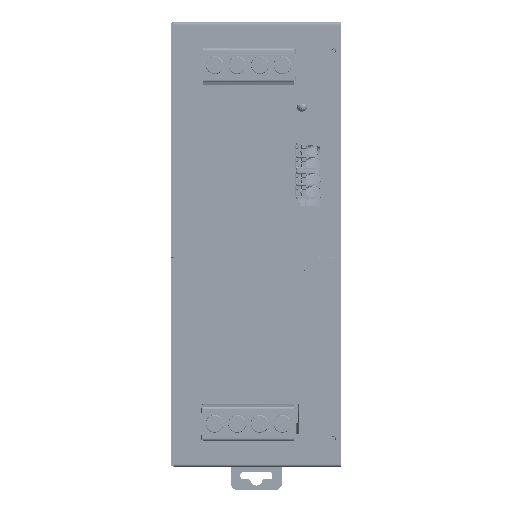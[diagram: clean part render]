
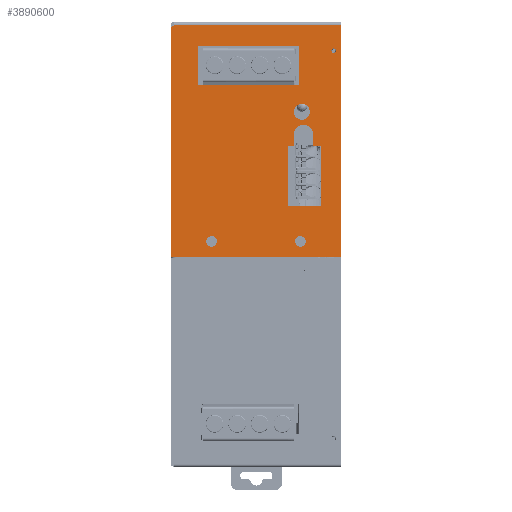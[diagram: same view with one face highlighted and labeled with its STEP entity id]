
A CAD part, left-side view. The second image highlights one B-rep face of the part: STEP entity #3890600.
In plain terms, the highlighted planar face has unit normal (-1, 0, 0).
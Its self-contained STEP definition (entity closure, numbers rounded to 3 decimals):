
#3886040=CARTESIAN_POINT('',(-36.647,70.686,
74.55));
#3886050=VERTEX_POINT('',#3886040);
#3886080=CARTESIAN_POINT('',(-36.647,70.686,
74.3));
#3886090=DIRECTION('',(0.,0.,1.));
#3886100=VECTOR('',#3886090,1.);
#3886110=LINE('',#3886080,#3886100);
#3886120=CARTESIAN_POINT('',(-36.647,70.686,
74.3));
#3886130=VERTEX_POINT('',#3886120);
#3886140=EDGE_CURVE('',#3886130,#3886050,#3886110,.T.);
#3886470=CARTESIAN_POINT('',(-36.647,23.686,
74.55));
#3886480=VERTEX_POINT('',#3886470);
#3886510=CARTESIAN_POINT('',(-36.647,70.686,
74.55));
#3886520=DIRECTION('',(0.,-1.,0.));
#3886530=VECTOR('',#3886520,1.);
#3886540=LINE('',#3886510,#3886530);
#3886550=EDGE_CURVE('',#3886050,#3886480,#3886540,.T.);
#3887770=CARTESIAN_POINT('',(-36.647,23.686,
9.2));
#3887780=VERTEX_POINT('',#3887770);
#3887930=CARTESIAN_POINT('',(-36.647,71.686,
9.2));
#3887940=VERTEX_POINT('',#3887930);
#3887970=CARTESIAN_POINT('',(-36.647,0.,9.2));
#3887980=DIRECTION('',(0.,-1.,0.));
#3887990=VECTOR('',#3887980,1.);
#3888000=LINE('',#3887970,#3887990);
#3888010=EDGE_CURVE('',#3887940,#3887780,#3888000,.T.);
#3888680=CARTESIAN_POINT('',(-36.647,31.986,
92.23));
#3888690=DIRECTION('',(-1.,0.,0.));
#3888700=DIRECTION('',(0.,0.,1.));
#3888710=AXIS2_PLACEMENT_3D('',#3888680,#3888690,#3888700);
#3888720=PLANE('',#3888710);
#3888730=CARTESIAN_POINT('',(-36.647,63.985,
68.8));
#3888740=DIRECTION('',(0.,0.,-1.));
#3888750=VECTOR('',#3888740,1.);
#3888760=LINE('',#3888730,#3888750);
#3888770=CARTESIAN_POINT('',(-36.647,63.985,
68.657));
#3888780=VERTEX_POINT('',#3888770);
#3888790=CARTESIAN_POINT('',(-36.647,63.985,
57.657));
#3888800=VERTEX_POINT('',#3888790);
#3888810=EDGE_CURVE('',#3888780,#3888800,#3888760,.T.);
#3888820=ORIENTED_EDGE('',*,*,#3888810,.F.);
#3888830=CARTESIAN_POINT('',(-36.647,64.486,
57.657));
#3888840=DIRECTION('',(0.,-1.,0.));
#3888850=VECTOR('',#3888840,1.);
#3888860=LINE('',#3888830,#3888850);
#3888870=CARTESIAN_POINT('',(-36.647,35.585,
57.657));
#3888880=VERTEX_POINT('',#3888870);
#3888890=EDGE_CURVE('',#3888800,#3888880,#3888860,.T.);
#3888900=ORIENTED_EDGE('',*,*,#3888890,.F.);
#3888910=CARTESIAN_POINT('',(-36.647,35.585,
56.8));
#3888920=DIRECTION('',(0.,0.,1.));
#3888930=VECTOR('',#3888920,1.);
#3888940=LINE('',#3888910,#3888930);
#3888950=CARTESIAN_POINT('',(-36.647,35.585,
68.657));
#3888960=VERTEX_POINT('',#3888950);
#3888970=EDGE_CURVE('',#3888880,#3888960,#3888940,.T.);
#3888980=ORIENTED_EDGE('',*,*,#3888970,.F.);
#3888990=CARTESIAN_POINT('',(-36.647,36.986,
68.657));
#3889000=DIRECTION('',(0.,1.,0.));
#3889010=VECTOR('',#3889000,1.);
#3889020=LINE('',#3888990,#3889010);
#3889030=EDGE_CURVE('',#3888960,#3888780,#3889020,.T.);
#3889040=ORIENTED_EDGE('',*,*,#3889030,.F.);
#3889050=EDGE_LOOP('',(#3889040,#3888980,#3888900,#3888820));
#3889060=FACE_BOUND('',#3889050,.T.);
#3889070=CARTESIAN_POINT('',(-36.647,25.786,
67.202));
#3889080=DIRECTION('',(1.,0.,0.));
#3889090=DIRECTION('',(0.,1.,0.));
#3889100=AXIS2_PLACEMENT_3D('',#3889070,#3889080,#3889090);
#3889110=CIRCLE('',#3889100,0.662);
#3889120=CARTESIAN_POINT('',(-36.647,26.449,
67.202));
#3889130=VERTEX_POINT('',#3889120);
#3889140=CARTESIAN_POINT('',(-36.647,25.124,
67.202));
#3889150=VERTEX_POINT('',#3889140);
#3889160=EDGE_CURVE('',#3889130,#3889150,#3889110,.T.);
#3889170=ORIENTED_EDGE('',*,*,#3889160,.T.);
#3889180=EDGE_CURVE('',#3889150,#3889130,#3889110,.T.);
#3889190=ORIENTED_EDGE('',*,*,#3889180,.T.);
#3889200=EDGE_LOOP('',(#3889190,#3889170));
#3889210=FACE_BOUND('',#3889200,.T.);
#3889220=CARTESIAN_POINT('',(-36.647,34.799,
50.041));
#3889230=DIRECTION('',(-1.,0.,0.));
#3889240=DIRECTION('',(0.,1.,0.));
#3889250=AXIS2_PLACEMENT_3D('',#3889220,#3889230,#3889240);
#3889260=CIRCLE('',#3889250,2.25);
#3889270=CARTESIAN_POINT('',(-36.647,37.049,
50.041));
#3889280=VERTEX_POINT('',#3889270);
#3889290=CARTESIAN_POINT('',(-36.647,32.549,
50.041));
#3889300=VERTEX_POINT('',#3889290);
#3889310=EDGE_CURVE('',#3889280,#3889300,#3889260,.T.);
#3889320=ORIENTED_EDGE('',*,*,#3889310,.F.);
#3889330=EDGE_CURVE('',#3889300,#3889280,#3889260,.T.);
#3889340=ORIENTED_EDGE('',*,*,#3889330,.F.);
#3889350=EDGE_LOOP('',(#3889340,#3889320));
#3889360=FACE_BOUND('',#3889350,.T.);
#3889370=CARTESIAN_POINT('',(-36.647,35.186,
13.55));
#3889380=DIRECTION('',(1.,0.,0.));
#3889390=DIRECTION('',(0.,0.,-1.));
#3889400=AXIS2_PLACEMENT_3D('',#3889370,#3889380,#3889390);
#3889410=CIRCLE('',#3889400,1.5);
#3889420=CARTESIAN_POINT('',(-36.647,35.186,
15.05));
#3889430=VERTEX_POINT('',#3889420);
#3889440=CARTESIAN_POINT('',(-36.647,35.186,
12.05));
#3889450=VERTEX_POINT('',#3889440);
#3889460=EDGE_CURVE('',#3889430,#3889450,#3889410,.T.);
#3889470=ORIENTED_EDGE('',*,*,#3889460,.T.);
#3889480=EDGE_CURVE('',#3889450,#3889430,#3889410,.T.);
#3889490=ORIENTED_EDGE('',*,*,#3889480,.T.);
#3889500=EDGE_LOOP('',(#3889490,#3889470));
#3889510=FACE_BOUND('',#3889500,.T.);
#3889520=CARTESIAN_POINT('',(-36.647,60.186,
13.55));
#3889530=DIRECTION('',(1.,0.,0.));
#3889540=DIRECTION('',(0.,0.,-1.));
#3889550=AXIS2_PLACEMENT_3D('',#3889520,#3889530,#3889540);
#3889560=CIRCLE('',#3889550,1.5);
#3889570=CARTESIAN_POINT('',(-36.647,60.186,
15.05));
#3889580=VERTEX_POINT('',#3889570);
#3889590=CARTESIAN_POINT('',(-36.647,60.186,
12.05));
#3889600=VERTEX_POINT('',#3889590);
#3889610=EDGE_CURVE('',#3889580,#3889600,#3889560,.T.);
#3889620=ORIENTED_EDGE('',*,*,#3889610,.T.);
#3889630=EDGE_CURVE('',#3889600,#3889580,#3889560,.T.);
#3889640=ORIENTED_EDGE('',*,*,#3889630,.T.);
#3889650=EDGE_LOOP('',(#3889640,#3889620));
#3889660=FACE_BOUND('',#3889650,.T.);
#3889670=CARTESIAN_POINT('',(-36.647,34.286,
43.597));
#3889680=DIRECTION('',(1.,0.,0.));
#3889690=DIRECTION('',(0.,1.,0.));
#3889700=AXIS2_PLACEMENT_3D('',#3889670,#3889680,#3889690);
#3889710=CIRCLE('',#3889700,2.75);
#3889720=CARTESIAN_POINT('',(-36.647,37.036,
43.597));
#3889730=VERTEX_POINT('',#3889720);
#3889740=CARTESIAN_POINT('',(-36.647,31.536,
43.597));
#3889750=VERTEX_POINT('',#3889740);
#3889760=EDGE_CURVE('',#3889730,#3889750,#3889710,.T.);
#3889770=ORIENTED_EDGE('',*,*,#3889760,.T.);
#3889780=CARTESIAN_POINT('',(-36.647,37.036,
42.885));
#3889790=DIRECTION('',(0.,0.,-1.));
#3889800=VECTOR('',#3889790,1.);
#3889810=LINE('',#3889780,#3889800);
#3889820=CARTESIAN_POINT('',(-36.647,37.036,
40.508));
#3889830=VERTEX_POINT('',#3889820);
#3889840=EDGE_CURVE('',#3889730,#3889830,#3889810,.T.);
#3889850=ORIENTED_EDGE('',*,*,#3889840,.F.);
#3889860=CARTESIAN_POINT('',(-36.647,36.29,
40.508));
#3889870=DIRECTION('',(0.,1.,0.));
#3889880=VECTOR('',#3889870,1.);
#3889890=LINE('',#3889860,#3889880);
#3889900=CARTESIAN_POINT('',(-36.647,38.786,
40.508));
#3889910=VERTEX_POINT('',#3889900);
#3889920=EDGE_CURVE('',#3889830,#3889910,#3889890,.T.);
#3889930=ORIENTED_EDGE('',*,*,#3889920,.F.);
#3889940=CARTESIAN_POINT('',(-36.647,38.786,
24.409));
#3889950=DIRECTION('',(0.,0.,1.));
#3889960=VECTOR('',#3889950,1.);
#3889970=LINE('',#3889940,#3889960);
#3889980=CARTESIAN_POINT('',(-36.647,38.786,
23.509));
#3889990=VERTEX_POINT('',#3889980);
#3890000=EDGE_CURVE('',#3889990,#3889910,#3889970,.T.);
#3890010=ORIENTED_EDGE('',*,*,#3890000,.T.);
#3890020=CARTESIAN_POINT('',(-36.647,29.786,
23.509));
#3890030=DIRECTION('',(0.,1.,0.));
#3890040=VECTOR('',#3890030,1.);
#3890050=LINE('',#3890020,#3890040);
#3890060=CARTESIAN_POINT('',(-36.647,29.286,
23.509));
#3890070=VERTEX_POINT('',#3890060);
#3890080=EDGE_CURVE('',#3890070,#3889990,#3890050,.T.);
#3890090=ORIENTED_EDGE('',*,*,#3890080,.T.);
#3890100=CARTESIAN_POINT('',(-36.647,29.286,
24.409));
#3890110=DIRECTION('',(0.,0.,1.));
#3890120=VECTOR('',#3890110,1.);
#3890130=LINE('',#3890100,#3890120);
#3890140=CARTESIAN_POINT('',(-36.647,29.286,
40.508));
#3890150=VERTEX_POINT('',#3890140);
#3890160=EDGE_CURVE('',#3890070,#3890150,#3890130,.T.);
#3890170=ORIENTED_EDGE('',*,*,#3890160,.F.);
#3890180=CARTESIAN_POINT('',(-36.647,29.786,
40.508));
#3890190=DIRECTION('',(0.,1.,0.));
#3890200=VECTOR('',#3890190,1.);
#3890210=LINE('',#3890180,#3890200);
#3890220=CARTESIAN_POINT('',(-36.647,31.536,
40.508));
#3890230=VERTEX_POINT('',#3890220);
#3890240=EDGE_CURVE('',#3890150,#3890230,#3890210,.T.);
#3890250=ORIENTED_EDGE('',*,*,#3890240,.F.);
#3890260=CARTESIAN_POINT('',(-36.647,31.536,
39.908));
#3890270=DIRECTION('',(0.,0.,1.));
#3890280=VECTOR('',#3890270,1.);
#3890290=LINE('',#3890260,#3890280);
#3890300=EDGE_CURVE('',#3890230,#3889750,#3890290,.T.);
#3890310=ORIENTED_EDGE('',*,*,#3890300,.F.);
#3890320=EDGE_LOOP('',(#3890310,#3890250,#3890170,#3890090,#3890010,
#3889930,#3889850,#3889770));
#3890330=FACE_BOUND('',#3890320,.T.);
#3890340=ORIENTED_EDGE('',*,*,#3888010,.T.);
#3890350=CARTESIAN_POINT('',(-36.647,71.686,
74.3));
#3890360=DIRECTION('',(0.,0.,-1.));
#3890370=VECTOR('',#3890360,1.);
#3890380=LINE('',#3890350,#3890370);
#3890390=CARTESIAN_POINT('',(-36.647,71.686,
73.3));
#3890400=VERTEX_POINT('',#3890390);
#3890410=EDGE_CURVE('',#3890400,#3887940,#3890380,.T.);
#3890420=ORIENTED_EDGE('',*,*,#3890410,.T.);
#3890430=CARTESIAN_POINT('',(-36.647,70.686,
73.3));
#3890440=DIRECTION('',(1.,0.,0.));
#3890450=DIRECTION('',(0.,-1.,0.));
#3890460=AXIS2_PLACEMENT_3D('',#3890430,#3890440,#3890450);
#3890470=CIRCLE('',#3890460,1.);
#3890480=EDGE_CURVE('',#3890400,#3886130,#3890470,.T.);
#3890490=ORIENTED_EDGE('',*,*,#3890480,.F.);
#3890500=ORIENTED_EDGE('',*,*,#3886140,.F.);
#3890510=ORIENTED_EDGE('',*,*,#3886550,.F.);
#3890520=CARTESIAN_POINT('',(-36.647,23.686,0.));
#3890530=DIRECTION('',(0.,0.,1.));
#3890540=VECTOR('',#3890530,1.);
#3890550=LINE('',#3890520,#3890540);
#3890560=EDGE_CURVE('',#3887780,#3886480,#3890550,.T.);
#3890570=ORIENTED_EDGE('',*,*,#3890560,.T.);
#3890580=EDGE_LOOP('',(#3890570,#3890510,#3890500,#3890490,#3890420,
#3890340));
#3890590=FACE_OUTER_BOUND('',#3890580,.T.);
#3890600=ADVANCED_FACE('',(#3889060,#3889210,#3889360,#3889510,#3889660,
#3890330,#3890590),#3888720,.T.);
